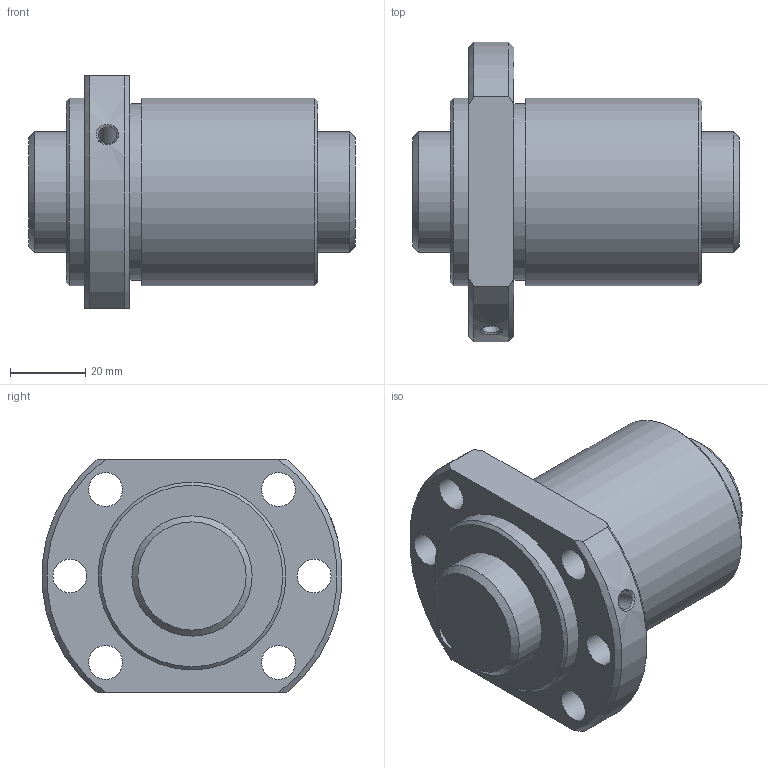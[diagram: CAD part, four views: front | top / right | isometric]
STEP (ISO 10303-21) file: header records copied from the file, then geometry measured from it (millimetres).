
FILE_DESCRIPTION(/* description */ ('STEP AP214'),/* implementation_level */ '2;1');
FILE_NAME(/* name */ 'EBB3205-6RRG0+87LC0-ebb2(0G000)-ebb2',/* time_stamp */ '2023-08-03T12:48:23+02:00',/* author */ ('License CC BY-ND 4.0'),/* organization */ ('CADENAS'),/* preprocessor_version */ 'ST-DEVELOPER v19.3',/* originating_system */ 'PARTsolutions',/* authorisation */ ' ');
FILE_SCHEMA (('AUTOMOTIVE_DESIGN {1 0 10303 214 3 1 1}'));
Length unit declared in the file: millimetre
Products named in the file (3): EBB3205-6RRG0+87LC0-ebb2(0G000)-ebb2; EBB 3205-6RR Nut2; EBB 3205-600 Shaft2
Assembly tree (2 placements, depth 2):
  EBB3205-6RRG0+87LC0-ebb2(0G000)-ebb2
    EBB 3205-6RR Nut2
    EBB 3205-600 Shaft2
Bounding box: 87 x 79.74 x 62 mm (x, y, z)
Volume: 170600 mm3; surface area: 37294.6 mm2
Topology: 2 solids, 2 shells, 32 faces, 72 edges, 47 vertices
Faces by surface type: cylinder 14, cone 9, plane 9
Full cylindrical faces by diameter (mm): 4.917 x1, 9 x6, 32 x2, 47 x1, 50 x2
Entity records: 935 total; most frequent: CARTESIAN_POINT 177, DIRECTION 148, ORIENTED_EDGE 106, AXIS2_PLACEMENT_3D 70, EDGE_LOOP 68, FACE_BOUND 68, EDGE_CURVE 53, VERTEX_POINT 45
